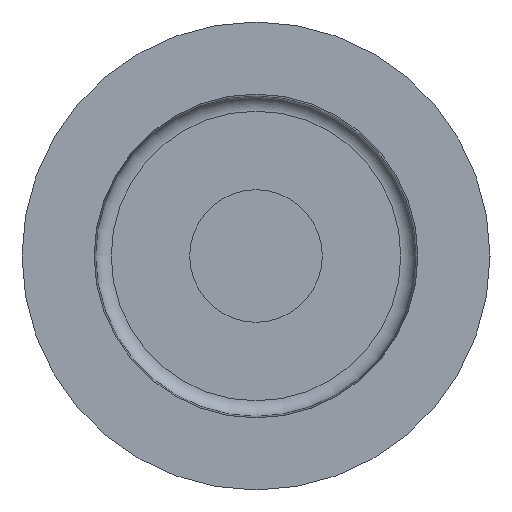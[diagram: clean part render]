
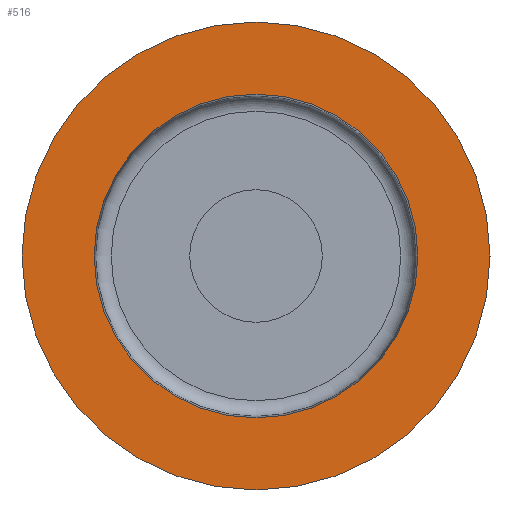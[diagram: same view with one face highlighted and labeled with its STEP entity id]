
A CAD part, left-side view. The second image highlights one B-rep face of the part: STEP entity #516.
In plain terms, the highlighted planar face has unit normal (-1, 0, 0).
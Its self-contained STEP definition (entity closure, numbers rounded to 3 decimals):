
#226=CARTESIAN_POINT('',(163.539,2969.19,5958.357));
#227=VERTEX_POINT('',#226);
#228=CARTESIAN_POINT('',(163.539,2969.19,5979.107));
#229=DIRECTION('',(-1.0,0.0,0.0));
#230=DIRECTION('',(0.0,0.0,1.0));
#231=AXIS2_PLACEMENT_3D('',#228,#229,#230);
#232=CIRCLE('',#231,20.75);
#233=EDGE_CURVE('',#227,#227,#232,.T.);
#497=CARTESIAN_POINT('',(163.539,2896.764,5906.68));
#498=DIRECTION('',(-1.0,0.0,0.0));
#499=DIRECTION('',(0.0,0.0,1.0));
#500=AXIS2_PLACEMENT_3D('',#497,#498,#499);
#501=PLANE('',#500);
#502=CARTESIAN_POINT('',(163.539,2969.19,5949.107));
#503=VERTEX_POINT('',#502);
#504=CARTESIAN_POINT('',(163.539,2969.19,5979.107));
#505=DIRECTION('',(-1.0,0.0,0.0));
#506=DIRECTION('',(0.0,0.0,1.0));
#507=AXIS2_PLACEMENT_3D('',#504,#505,#506);
#508=CIRCLE('',#507,30.);
#509=EDGE_CURVE('',#503,#503,#508,.T.);
#510=ORIENTED_EDGE('',*,*,#509,.T.);
#511=EDGE_LOOP('',(#510));
#512=FACE_OUTER_BOUND('',#511,.T.);
#513=ORIENTED_EDGE('',*,*,#233,.F.);
#514=EDGE_LOOP('',(#513));
#515=FACE_BOUND('',#514,.T.);
#516=ADVANCED_FACE('',(#512,#515),#501,.T.);
